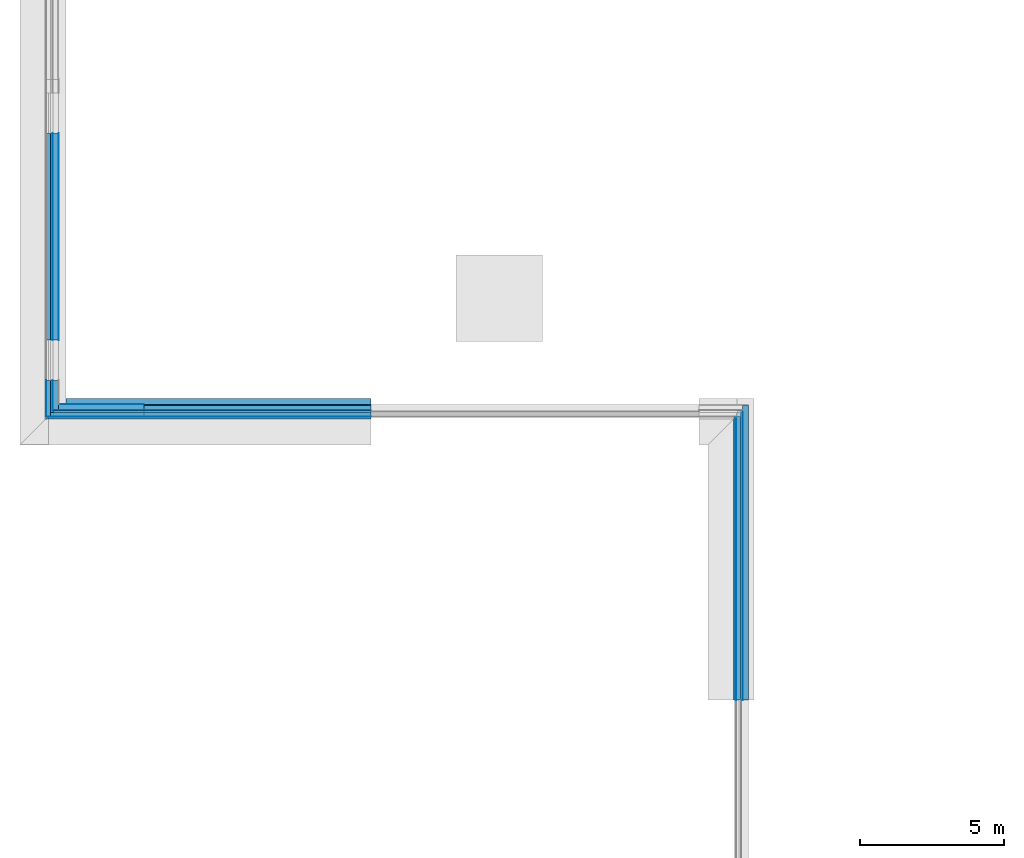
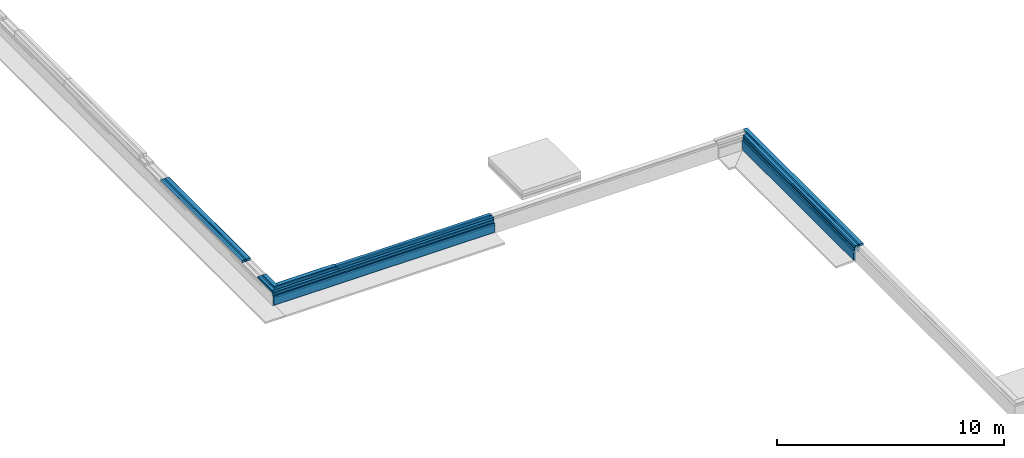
# One storey, part 4 of 17: 40 building element parts, 7 elements without a shape of their own.
"""IFC2X3 building model written with IfcOpenShell, lengths in millimetres."""

from ifc_helpers import new_model, entity, si_unit, converted_unit, derived_unit, money_unit, direction, frame, origin_with_axes, place, context, subcontext, project, spatial, faceted_brep, material, type_object, element, aggregate, save


model = new_model("IFC2X3")

# Units and contexts
model_context = context("Model", 3, precision=0.01, world=origin_with_axes(), true_north=direction((0.0, 1.0)))
body_context = subcontext(model_context, "Body", "Model", "MODEL_VIEW")
ifc_project = project(units=[si_unit("LENGTHUNIT", "METRE", prefix="MILLI"), si_unit("AREAUNIT", "SQUARE_METRE"), si_unit("VOLUMEUNIT", "CUBIC_METRE"), converted_unit("PLANEANGLEUNIT", "DEGREE", entity("IfcPlaneAngleMeasure", 0.0174532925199), si_unit("PLANEANGLEUNIT", "RADIAN"), dimensions=[0, 0, 0, 0, 0, 0, 0]), money_unit("EUR"), converted_unit("TIMEUNIT", "Year", entity("IfcTimeMeasure", 31556926.0), si_unit("TIMEUNIT", "SECOND"), dimensions=[0, 0, 1, 0, 0, 0, 0]), si_unit("MASSUNIT", "GRAM", prefix="KILO"), si_unit("THERMODYNAMICTEMPERATUREUNIT", "DEGREE_CELSIUS"), si_unit("LUMINOUSINTENSITYUNIT", "LUMEN"), si_unit("ENERGYUNIT", "JOULE", prefix="MEGA"), derived_unit("THERMALCONDUCTANCEUNIT", [(si_unit("POWERUNIT", "WATT"), 1), (si_unit("LENGTHUNIT", "METRE"), -1), (si_unit("THERMODYNAMICTEMPERATUREUNIT", "KELVIN"), -1)]), derived_unit("SPECIFICHEATCAPACITYUNIT", [(si_unit("ENERGYUNIT", "JOULE"), 1), (si_unit("MASSUNIT", "GRAM", prefix="KILO"), -1), (si_unit("THERMODYNAMICTEMPERATUREUNIT", "KELVIN"), -1)]), derived_unit("MASSDENSITYUNIT", [(si_unit("MASSUNIT", "GRAM", prefix="KILO"), 1), (si_unit("VOLUMEUNIT", "CUBIC_METRE"), -1)])], contexts=[model_context])

# Site, building, storey
site_placement = place(None, origin_with_axes())
site = spatial("IfcSite", under=ifc_project, at=site_placement, Name="Kolde pst 67a", CompositionType="ELEMENT")
building_placement = place(site_placement, origin_with_axes())
building = spatial("IfcBuilding", under=site, at=building_placement, Name="Riigigümnaasium", CompositionType="ELEMENT")
storey_placement = place(building_placement, frame((0.0, 0.0, -1500.0), z_axis=(0.0, 0.0, 1.0), x_axis=(1.0, 0.0, 0.0)))
storey = spatial("IfcBuildingStorey", under=building, at=storey_placement, Name="Vundament", CompositionType="ELEMENT", Elevation=-1500.0)

# Wall, building element parts
wall_type_1 = type_object("IfcWallType", Name="Lintvundament 1602 x 765", PredefinedType="NOTDEFINED")
wall_1_placement = place(storey_placement, frame((40.0563582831, 48039.9808318, 1479.99999851), z_axis=(0.0, 0.0, 1.0), x_axis=(1.0, 0.0, 0.0)))
wall_1 = element("IfcWall", 1, at=wall_1_placement, inside=storey, type_object=wall_type_1, Name="Vundament")
ifc_material_1 = material(Name="_KANDETARIND - monoliitne raudbetoon vastavalt EK osale")
building_element_part_1_placement = place(wall_1_placement, origin_with_axes())
building_element_part_1 = element("IfcBuildingElementPart", 2, at=building_element_part_1_placement, material=ifc_material_1, Name="_KANDETARIND - monoliitne raudbetoon vastavalt EK osale", context=body_context, shape_type="Brep", body=[
    faceted_brep([(199.999999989, 200.000000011, 0.0), (11068.5385942, 200.0000006, 0.0), (11068.5385942, 200.0000006, -250.0), (459.942555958, 200.000000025, -250.0), (199.999999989, 200.000000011, -250.0), (200.0, 1.08428821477e-08, 0.0), (11068.5385942, 6.00437033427e-07, 0.0), (11068.5385942, 399.942556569, -250.0), (11068.5385942, 6.00437033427e-07, -250.0), (11068.5385942, -200.057443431, -250.0), (11068.5385942, -200.057443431, -750.0), (11068.5385942, 399.942556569, -750.0), (459.942555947, 399.942555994, -250.0), (459.942555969, 2.49471554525e-08, -250.0), (200.0, 1.08499875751e-08, -250.0), (459.94255598, -200.057444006, -250.0), (459.94255598, -200.057444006, -750.0), (459.942555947, 399.942555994, -750.0)], [[[0, 1, 2, 3, 4]], [[0, 5, 6, 1]], [[7, 2, 1, 6, 8, 9, 10, 11]], [[12, 3, 2, 7]], [[4, 3, 13, 14]], [[5, 0, 4, 14]], [[5, 14, 13, 8, 6]], [[13, 15, 9, 8]], [[15, 16, 10, 9]], [[16, 17, 11, 10]], [[12, 7, 11, 17]], [[3, 12, 17, 16, 15, 13]]]),
])
ifc_material_2 = material(Name="_SOOJUSTUS - ekstrudeeritud polüstüreenist plaadid XPS 250, survetugevus min 250kPa, soojuserijuhtivus λD<0,036 W/(mK), veeimavus alla 0,2%, näiteks XPS 250 foam SL või samaväärne")
building_element_part_2_placement = place(wall_1_placement, origin_with_axes())
building_element_part_2 = element("IfcBuildingElementPart", 3, at=building_element_part_2_placement, material=ifc_material_2, Name="_SOOJUSTUS - ekstrudeeritud polüstüreenist plaadid XPS 250, survetugevus min 250kPa, soojuserijuhtivus λD<0,036 W/(mK), veeimavus alla 0,2%, näiteks XPS 250 foam SL või samaväärne", context=body_context, shape_type="Brep", body=[
    faceted_brep([(-3.00000241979, -3.0000024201, 0.0), (11068.5385942, -3.00000181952, -3.7612034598e-06), (11068.5385942, -3.00000181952, -146.999999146), (-3.00000241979, -3.00000242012, -146.99999851), (-3.000002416, -73.0000017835, 0.0), (11068.5385942, -73.0000011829, -3.76120340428e-06), (11068.5385942, -73.0000011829, -146.999999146), (-3.000002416, -73.0000017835, -146.99999851)], [[[0, 1, 2, 3]], [[0, 4, 5, 1]], [[5, 6, 2, 1]], [[3, 2, 6, 7]], [[4, 0, 3, 7]], [[4, 7, 6, 5]]]),
])
ifc_material_3 = material(Name="_SOOJUSTUS - vahtpolüstüreenplaadid EPS 120 Perimeeter, survetugevus min 120kPa, veeimavus <2%, soojuserijuhtivus λD<0,036 W/(mK)")
building_element_part_3_placement = place(wall_1_placement, origin_with_axes())
building_element_part_3 = element("IfcBuildingElementPart", 4, at=building_element_part_3_placement, material=ifc_material_3, Name="_SOOJUSTUS - vahtpolüstüreenplaadid EPS 120 Perimeeter, survetugevus min 120kPa, veeimavus <2%, soojuserijuhtivus λD<0,036 W/(mK)", context=body_context, shape_type="Brep", body=[
    faceted_brep([(-73.0000021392, -73.0000013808, 1.49012682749e-06), (11068.5385942, -73.0000007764, -2.23078100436e-06), (11068.5385942, -73.0000007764, -146.999999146), (-73.0000021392, -73.0000013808, -146.999998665), (-73.0000021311, -223.000000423, 1.49012682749e-06), (11068.5385942, -222.999999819, -2.23078100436e-06), (11068.5385942, -222.999999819, -146.999999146), (-73.0000021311, -223.000000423, -146.999998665)], [[[0, 1, 2, 3]], [[0, 4, 5, 1]], [[6, 2, 1, 5]], [[2, 6, 7, 3]], [[4, 0, 3, 7]], [[4, 7, 6, 5]]]),
])
building_element_part_4_placement = place(wall_1_placement, origin_with_axes())
building_element_part_4 = element("IfcBuildingElementPart", 5, at=building_element_part_4_placement, material=ifc_material_3, Name="_SOOJUSTUS - vahtpolüstüreenplaadid EPS 120 Perimeeter, survetugevus min 120kPa, veeimavus <2%, soojuserijuhtivus λD<0,036 W/(mK)", context=body_context, shape_type="Brep", body=[
    faceted_brep([(-3.00000241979, -3.00000242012, -247.000000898), (-3.00000241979, -3.00000242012, -146.999997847), (11068.5385942, -3.00000181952, -146.99999851), (11068.5385942, -3.00000181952, -247.000001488), (-3.00000240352, -303.057446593, -146.999997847), (-3.00000240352, -303.057446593, -247.000000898), (11068.5385942, -303.057445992, -146.99999851), (11068.5385942, -303.057445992, -247.000001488)], [[[0, 1, 2, 3]], [[4, 1, 0, 5]], [[1, 4, 6, 2]], [[7, 3, 2, 6]], [[5, 0, 3, 7]], [[4, 5, 7, 6]]]),
])
ifc_material_4 = material(Name="_HÜDROISOLATSIOON - Bituumenvõõp COMBIFLEX-EL vastavalt TL2 nõuetele")
building_element_part_5_placement = place(wall_1_placement, origin_with_axes())
building_element_part_5 = element("IfcBuildingElementPart", 6, at=building_element_part_5_placement, material=ifc_material_4, Name="_HÜDROISOLATSIOON - Bituumenvõõp COMBIFLEX-EL vastavalt TL2 nõuetele", context=body_context, shape_type="Brep", body=[
    faceted_brep([(0.0, 0.0, 6.88264223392e-07), (11068.5385942, 6.00444138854e-07, 8.81641959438e-06), (11068.5385942, 6.00444138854e-07, -250.000008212), (0.0, 0.0, -250.000006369), (1.63632996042e-10, -2.99999783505, 6.88264223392e-07), (11068.5385942, -2.99999723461, -2.35946218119e-06), (11068.5385942, -203.057434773, -750.000008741), (11068.5385942, -200.057436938, -750.000008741), (11068.5385942, -200.057436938, -250.000008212), (11068.5385942, -2.99999723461, -246.999999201), (11068.5385942, -203.057434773, -246.999999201), (11068.5385942, -203.057434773, -729.999997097), (1.08534431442e-08, -200.057437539, -250.000006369), (1.10161810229e-08, -203.057435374, -250.000006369), (1.10161810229e-08, -203.057435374, -247.000002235), (1.63632996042e-10, -2.99999783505, -247.000002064), (-140.057449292, -203.057435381, -750.000006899), (-140.057449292, -200.057437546, -750.000006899), (-140.05744801, -200.057437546, -250.000006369), (-140.05744801, -203.057435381, -250.000006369), (-140.057449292, -203.057435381, -729.999995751)], [[[0, 1, 2, 3]], [[0, 4, 5, 1]], [[6, 7, 8, 2, 1, 5, 9, 10, 11]], [[8, 12, 3, 2]], [[4, 0, 3, 12, 13, 14, 15]], [[4, 15, 9, 5]], [[6, 16, 17, 7]], [[8, 7, 17, 18, 12]], [[9, 15, 14, 10]], [[13, 19, 20, 11, 10, 14]], [[11, 20, 16, 6]], [[13, 12, 18, 19]], [[17, 16, 20, 19, 18]]]),
])
ifc_material_5 = material(Name="_TUULETÕKE - sokli krohv, silikoonvaikkrohv Weber.pas 481 AquaBalance 1mm \"scratch\" viimistlus, toon helehall CL444 (S 3502-Y) * 35, SILS süsteem, või samaväärne")
building_element_part_6_placement = place(wall_1_placement, origin_with_axes())
building_element_part_6 = element("IfcBuildingElementPart", 7, at=building_element_part_6_placement, material=ifc_material_5, Name="_TUULETÕKE - sokli krohv, silikoonvaikkrohv Weber.pas 481 AquaBalance 1mm \"scratch\" viimistlus, toon helehall CL444 (S 3502-Y) * 35, SILS süsteem, või samaväärne", context=body_context, shape_type="Brep", body=[
    faceted_brep([(-223.000003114, -223.000001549, 1.74315643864e-06), (11068.5385942, -223.000000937, -1.37334277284e-06), (11068.5385942, -223.000000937, -146.999999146), (-223.000003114, -223.000001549, -146.999999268), (-223.000003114, -233.00000156, 1.74315643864e-06), (11068.5385942, -233.000000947, -1.37334277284e-06), (11068.5385942, -233.000000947, -146.999999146), (11068.5385942, -233.000001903, -30.0000036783), (-223.000003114, -233.00000156, -146.999999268), (-223.000003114, -233.000002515, -30.0000036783)], [[[0, 1, 2, 3]], [[0, 4, 5, 1]], [[6, 2, 1, 5, 7]], [[6, 8, 3, 2]], [[9, 4, 0, 3, 8]], [[4, 9, 7, 5]], [[7, 9, 8, 6]]]),
])
ifc_material_6 = material(Name="_HÜDROISOLATSIOON - tsemendil baseeruv ühekomponentne hüdroisolatsioon hüdroisoleerimiseks sokli krohvi pealt, ülevärvitud silikoonvaikvärviga sokli krohvi tooni, Weber.tec 824 ja Weber.ton 411 AquaBalance toon CL444 (S 3502-Y) * 35 või samaväärne")
building_element_part_7_placement = place(wall_1_placement, origin_with_axes())
building_element_part_7 = element("IfcBuildingElementPart", 8, at=building_element_part_7_placement, material=ifc_material_6, Name="_HÜDROISOLATSIOON - tsemendil baseeruv ühekomponentne hüdroisolatsioon hüdroisoleerimiseks sokli krohvi pealt, ülevärvitud silikoonvaikvärviga sokli krohvi tooni, Weber.tec 824 ja Weber.ton 411 AquaBalance toon CL444 (S 3502-Y) * 35 või samaväärne", context=body_context, shape_type="Brep", body=[
    faceted_brep([(-232.999999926, -233.000002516, -147.000002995), (-232.999999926, -233.000002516, -30.0000036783), (11068.5385942, -233.000001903, -30.0000036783), (11068.5385942, -233.000001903, -147.000002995), (-232.999999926, -234.999996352, -30.0000036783), (-232.999999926, -234.999996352, -147.000002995), (11068.5385942, -234.999995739, -29.9999946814), (11068.5385942, -234.999995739, -146.999993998)], [[[0, 1, 2, 3]], [[4, 1, 0, 5]], [[1, 4, 6, 2]], [[3, 2, 6, 7]], [[5, 0, 3, 7]], [[4, 5, 7, 6]]]),
])
building_element_part_8_placement = place(wall_1_placement, origin_with_axes())
building_element_part_8 = element("IfcBuildingElementPart", 9, at=building_element_part_8_placement, material=ifc_material_3, Name="_SOOJUSTUS - vahtpolüstüreenplaadid EPS 120 Perimeeter, survetugevus min 120kPa, veeimavus <2%, soojuserijuhtivus λD<0,036 W/(mK)", context=body_context, shape_type="Brep", body=[
    faceted_brep([(-143.057441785, -203.057444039, -629.930161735), (-143.057441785, -203.057444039, -247.000002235), (11068.5385942, -203.057443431, -246.99999851), (11068.5385942, -203.057443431, -629.930162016), (-143.05744178, -303.057446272, -247.000002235), (-143.05744178, -303.057446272, -629.930161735), (11068.5385942, -303.057445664, -246.99999851), (11068.5385942, -303.057445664, -633.422240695), (-243.057443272, -303.057446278, -633.422240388)], [[[0, 1, 2, 3]], [[4, 1, 0, 5]], [[1, 4, 6, 2]], [[6, 7, 3, 2]], [[3, 7, 8, 0]], [[5, 0, 8]], [[4, 5, 8, 7, 6]]]),
])
ifc_material_7 = material(Name="_ALUSKATE - drenaaži- ja kaitsematt geotekstiiliga soojustuse kaitseks, Interplast Iso-Drain 8 Geo või samaväärne")
building_element_part_9_placement = place(wall_1_placement, origin_with_axes())
building_element_part_9 = element("IfcBuildingElementPart", 10, at=building_element_part_9_placement, material=ifc_material_7, Name="_ALUSKATE - drenaaži- ja kaitsematt geotekstiiliga soojustuse kaitseks, Interplast Iso-Drain 8 Geo või samaväärne", context=body_context, shape_type="Brep", body=[
    faceted_brep([(-235.000000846, -234.999993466, -146.999992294), (-235.000000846, -234.999993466, -29.9999946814), (11068.5385942, -234.999992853, -29.9999946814), (11068.5385942, -234.999992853, -146.999992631), (-235.000000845, -245.000005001, -29.9999946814), (-235.000000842, -303.057440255, -146.999992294), (-235.000000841, -313.057436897, -146.999992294), (-235.000000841, -313.057436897, -137.030570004), (-235.000000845, -245.000005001, -137.030570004), (11068.5385942, -245.000004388, -29.9999946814), (11068.5385942, -245.000004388, -137.030570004), (11068.5385942, -313.057436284, -137.030570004), (11068.5385942, -313.057436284, -633.771447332), (11068.5385942, -303.057439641, -633.422236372), (11068.5385942, -303.057439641, -146.999992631), (-243.057437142, -303.057440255, -146.999999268), (-243.057437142, -313.057436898, -146.999999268), (-243.05743799, -313.057436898, -629.93015656), (-243.057553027, -313.057436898, -633.422240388), (-253.057449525, -313.057436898, -633.771447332), (-243.057553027, -303.057440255, -633.422240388), (-243.05743799, -303.057440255, -629.93015656)], [[[0, 1, 2, 3]], [[4, 1, 0, 5, 6, 7, 8]], [[1, 4, 9, 2]], [[2, 9, 10, 11, 12, 13, 14, 3]], [[5, 0, 3, 14]], [[5, 15, 16, 6]], [[6, 16, 17, 18, 19, 12, 11, 7]], [[8, 7, 11, 10]], [[4, 8, 10, 9]], [[19, 20, 13, 12]], [[15, 5, 14, 13, 20, 21]], [[16, 15, 21, 17]], [[20, 18, 17, 21]], [[18, 20, 19]]]),
])
aggregate(wall_1, [building_element_part_1, building_element_part_2, building_element_part_3, building_element_part_4, building_element_part_5, building_element_part_6, building_element_part_7, building_element_part_8, building_element_part_9])

wall_2_placement = place(storey_placement, frame((24040.0027342, 48039.9808308, 1479.99999851), z_axis=(0.0, 0.0, 1.0), x_axis=(0.0, -1.0, 0.0)))
wall_2 = element("IfcWall", 11, at=wall_2_placement, inside=storey, type_object=wall_type_1, Name="Vundament")
building_element_part_10_placement = place(wall_2_placement, origin_with_axes())
building_element_part_10 = element("IfcBuildingElementPart", 12, at=building_element_part_10_placement, material=ifc_material_4, Name="_HÜDROISOLATSIOON - Bituumenvõõp COMBIFLEX-EL vastavalt TL2 nõuetele", context=body_context, shape_type="Brep", body=[
    faceted_brep([(-8.36024582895e-08, 0.0, 0.0), (10089.4842046, 0.0, 8.81641959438e-06), (10089.4842046, 0.0, -250.000008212), (-8.36024582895e-08, 0.0, -250.0), (-8.36024582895e-08, -2.99999783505, 0.0), (10089.4842046, -2.99999783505, -2.35946218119e-06), (10089.4842046, -200.057437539, -250.000008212), (10089.4842046, -2.99999783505, -246.999999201), (10089.4842046, -203.057435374, -246.999999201), (10089.4842046, -203.057435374, -729.999997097), (10089.4842046, -203.057435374, -750.000008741), (10089.4842046, -200.057437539, -750.000008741), (-8.36024582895e-08, -203.057435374, -250.0), (200.057443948, -200.057437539, -250.0), (200.057443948, -203.057435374, -250.0), (-8.36024582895e-08, -203.057435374, -247.000001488), (-8.36024582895e-08, -2.99999783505, -247.000001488), (200.057443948, -203.057435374, -729.999995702), (200.057443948, -203.057435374, -750.0), (200.057443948, -200.057437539, -750.0)], [[[0, 1, 2, 3]], [[0, 4, 5, 1]], [[6, 2, 1, 5, 7, 8, 9, 10, 11]], [[12, 3, 2, 6, 13, 14]], [[4, 0, 3, 12, 15, 16]], [[4, 16, 7, 5]], [[16, 15, 8, 7]], [[14, 17, 9, 8, 15, 12]], [[17, 18, 10, 9]], [[18, 19, 11, 10]], [[13, 6, 11, 19]], [[14, 13, 19, 18, 17]]]),
])
building_element_part_11_placement = place(wall_2_placement, origin_with_axes())
building_element_part_11 = element("IfcBuildingElementPart", 13, at=building_element_part_11_placement, material=ifc_material_5, Name="_TUULETÕKE - sokli krohv, silikoonvaikkrohv Weber.pas 481 AquaBalance 1mm \"scratch\" viimistlus, toon helehall CL444 (S 3502-Y) * 35, SILS süsteem, või samaväärne", context=body_context, shape_type="Brep", body=[
    faceted_brep([(223.000000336, -223.000001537, -2.23078099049e-06), (10089.4842046, -223.000001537, -1.37334277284e-06), (10089.4842046, -223.000001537, -146.999999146), (223.000000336, -223.000001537, -146.999999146), (223.000000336, -233.000001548, -2.23078099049e-06), (10089.4842046, -233.000001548, -1.37334277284e-06), (10089.4842046, -233.000002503, -30.0000036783), (10089.4842046, -233.000001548, -146.999999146), (223.000000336, -233.000001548, -146.999999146), (223.000000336, -233.000002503, -30.0000036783)], [[[0, 1, 2, 3]], [[0, 4, 5, 1]], [[2, 1, 5, 6, 7]], [[8, 3, 2, 7]], [[9, 4, 0, 3, 8]], [[4, 9, 6, 5]], [[9, 8, 7, 6]]]),
])
building_element_part_12_placement = place(wall_2_placement, origin_with_axes())
building_element_part_12 = element("IfcBuildingElementPart", 14, at=building_element_part_12_placement, material=ifc_material_6, Name="_HÜDROISOLATSIOON - tsemendil baseeruv ühekomponentne hüdroisolatsioon hüdroisoleerimiseks sokli krohvi pealt, ülevärvitud silikoonvaikvärviga sokli krohvi tooni, Weber.tec 824 ja Weber.ton 411 AquaBalance toon CL444 (S 3502-Y) * 35 või samaväärne", context=body_context, shape_type="Brep", body=[
    faceted_brep([(233.000001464, -233.000002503, -146.999999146), (233.000002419, -233.000002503, -30.0000036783), (10089.4842046, -233.000002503, -30.0000036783), (10089.4842046, -233.000002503, -147.000002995), (233.000002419, -234.99999634, -30.0000036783), (233.000001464, -234.99999634, -146.999999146), (10089.4842046, -234.99999634, -29.9999946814), (10089.4842046, -234.99999634, -146.999993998)], [[[0, 1, 2, 3]], [[4, 1, 0, 5]], [[1, 4, 6, 2]], [[7, 3, 2, 6]], [[5, 0, 3, 7]], [[4, 5, 7, 6]]]),
])
building_element_part_13_placement = place(wall_2_placement, origin_with_axes())
building_element_part_13 = element("IfcBuildingElementPart", 15, at=building_element_part_13_placement, material=ifc_material_3, Name="_SOOJUSTUS - vahtpolüstüreenplaadid EPS 120 Perimeeter, survetugevus min 120kPa, veeimavus <2%, soojuserijuhtivus λD<0,036 W/(mK)", context=body_context, shape_type="Brep", body=[
    faceted_brep([(203.05743529, -203.057444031, -629.93015656), (203.05743529, -203.057444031, -246.999999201), (10089.4842046, -203.057444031, -246.99999851), (10089.4842046, -203.057444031, -629.930162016), (203.05743529, -303.057446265, -246.999999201), (203.05743529, -303.057446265, -629.93015656), (10089.4842046, -303.057446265, -246.99999851), (10089.4842046, -303.057446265, -633.422240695), (303.057483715, -303.057446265, -633.422240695)], [[[0, 1, 2, 3]], [[4, 1, 0, 5]], [[1, 4, 6, 2]], [[7, 3, 2, 6]], [[8, 0, 3, 7]], [[5, 0, 8]], [[4, 5, 8, 7, 6]]]),
])
building_element_part_14_placement = place(wall_2_placement, origin_with_axes())
building_element_part_14 = element("IfcBuildingElementPart", 16, at=building_element_part_14_placement, material=ifc_material_7, Name="_ALUSKATE - drenaaži- ja kaitsematt geotekstiiliga soojustuse kaitseks, Interplast Iso-Drain 8 Geo või samaväärne", context=body_context, shape_type="Brep", body=[
    faceted_brep([(234.999996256, -234.999993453, -146.999993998), (234.999996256, -234.999993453, -29.9999946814), (10089.4842046, -234.999993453, -29.9999946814), (10089.4842046, -234.999993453, -146.999992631), (234.999996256, -245.000004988, -29.9999946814), (234.999996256, -313.057436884, -146.999993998), (234.999996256, -313.057436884, -137.030570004), (234.999996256, -245.000004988, -137.030570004), (10089.4842046, -245.000004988, -29.9999946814), (10089.4842046, -245.000004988, -137.030570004), (10089.4842046, -313.057436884, -137.030570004), (10089.4842046, -313.057436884, -633.771447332), (10089.4842046, -303.057440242, -633.422236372), (10089.4842046, -303.057440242, -146.999992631), (303.057446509, -303.057440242, -146.99999851), (303.057446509, -313.057436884, -146.99999851), (303.057446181, -313.057436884, -633.422240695), (313.057436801, -313.057436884, -633.771447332), (303.057446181, -303.057440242, -633.422240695)], [[[0, 1, 2, 3]], [[4, 1, 0, 5, 6, 7]], [[1, 4, 8, 2]], [[9, 10, 11, 12, 13, 3, 2, 8]], [[5, 0, 3, 13, 14, 15]], [[6, 5, 15, 16, 17, 11, 10]], [[7, 6, 10, 9]], [[4, 7, 9, 8]], [[17, 18, 12, 11]], [[12, 18, 14, 13]], [[18, 16, 15, 14]], [[16, 18, 17]]]),
])
aggregate(wall_2, [building_element_part_10, building_element_part_11, building_element_part_12, building_element_part_13, building_element_part_14])

wall_type_2 = type_object("IfcWallType", Name="VS-RB-20/2_sokkel  443", PredefinedType="NOTDEFINED")
wall_3_placement = place(storey_placement, frame((40.0568180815, 57672.0053224, 1480.0), z_axis=(0.0, 0.0, 1.0), x_axis=(0.0, -1.0, 0.0)))
wall_3 = element("IfcWall", 17, at=wall_3_placement, inside=storey, type_object=wall_type_2, Name="Sokkel")
ifc_material_8 = material(Name="_VIIMISTLUSKIHT - viimistlus vastavalt SA osale")
building_element_part_15_placement = place(wall_3_placement, origin_with_axes())
building_element_part_15 = element("IfcBuildingElementPart", 18, at=building_element_part_15_placement, material=ifc_material_8, Name="_VIIMISTLUSKIHT - viimistlus vastavalt SA osale", context=body_context, shape_type="Brep", body=[
    faceted_brep([(7190.71404711, 210.0, 0.0), (7190.71404711, 200.0, 0.0), (0.0, 200.0, 0.0), (0.0, 210.0, 0.0), (7190.71404711, 210.0, 120.0), (7190.71404711, 200.0, 120.0), (0.0, 200.0, 120.0), (0.0, 210.0, 120.0)], [[[0, 1, 2, 3]], [[0, 4, 5, 1]], [[1, 5, 6, 2]], [[3, 2, 6, 7]], [[4, 0, 3, 7]], [[5, 4, 7, 6]]]),
])
ifc_material_9 = material(Name="_KANDETARIND - monteeritav raudbetoon vastavalt EK osale")
building_element_part_16_placement = place(wall_3_placement, origin_with_axes())
building_element_part_16 = element("IfcBuildingElementPart", 19, at=building_element_part_16_placement, material=ifc_material_9, Name="_KANDETARIND - monteeritav raudbetoon vastavalt EK osale", context=body_context, shape_type="Brep", body=[
    faceted_brep([(7190.71404711, 200.0, 0.0), (7190.71404711, 0.0, 0.0), (0.0, 0.0, 0.0), (0.0, 200.0, 0.0), (7190.71404711, 200.0, 120.0), (7190.71404711, 0.0, 120.0), (0.0, 0.0, 120.0), (0.0, 200.0, 120.0)], [[[0, 1, 2, 3]], [[0, 4, 5, 1]], [[1, 5, 6, 2]], [[3, 2, 6, 7]], [[4, 0, 3, 7]], [[5, 4, 7, 6]]]),
])
ifc_material_10 = material(Name="_HÜDROISOLATSIOON - 3x SBS rullmaterjal vastavalt TL2 nõuetele, nakke tugevduseks betoonpind eelnevalt katta hüdroisolatsiooni bituumenvõõbaga")
building_element_part_17_placement = place(wall_3_placement, origin_with_axes())
building_element_part_17 = element("IfcBuildingElementPart", 20, at=building_element_part_17_placement, material=ifc_material_10, Name="_HÜDROISOLATSIOON - 3x SBS rullmaterjal vastavalt TL2 nõuetele, nakke tugevduseks betoonpind eelnevalt katta hüdroisolatsiooni bituumenvõõbaga", context=body_context, shape_type="Brep", body=[
    faceted_brep([(7190.71404711, 0.0, 0.0), (7190.71404711, -2.99999999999, 0.0), (0.0, -3.0, 0.0), (0.0, 0.0, 0.0), (7190.71404711, 0.0, 120.0), (7190.71404711, -2.99999999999, 120.0), (0.0, -3.0, 120.0), (0.0, 0.0, 120.0)], [[[0, 1, 2, 3]], [[0, 4, 5, 1]], [[1, 5, 6, 2]], [[3, 2, 6, 7]], [[4, 0, 3, 7]], [[5, 4, 7, 6]]]),
])
building_element_part_18_placement = place(wall_3_placement, origin_with_axes())
building_element_part_18 = element("IfcBuildingElementPart", 21, at=building_element_part_18_placement, material=ifc_material_2, Name="_SOOJUSTUS - ekstrudeeritud polüstüreenist plaadid XPS 250, survetugevus min 250kPa, soojuserijuhtivus λD<0,036 W/(mK), veeimavus alla 0,2%, näiteks XPS 250 foam SL või samaväärne", context=body_context, shape_type="Brep", body=[
    faceted_brep([(7190.71404711, -2.99999999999, 0.0), (7190.71404711, -73.0, 0.0), (0.0, -73.0, 0.0), (0.0, -3.0, 0.0), (7190.71404711, -2.99999999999, 120.0), (7190.71404711, -73.0, 120.0), (0.0, -73.0, 120.0), (0.0, -3.0, 120.0)], [[[0, 1, 2, 3]], [[0, 4, 5, 1]], [[1, 5, 6, 2]], [[3, 2, 6, 7]], [[4, 0, 3, 7]], [[5, 4, 7, 6]]]),
])
building_element_part_19_placement = place(wall_3_placement, origin_with_axes())
building_element_part_19 = element("IfcBuildingElementPart", 22, at=building_element_part_19_placement, material=ifc_material_3, Name="_SOOJUSTUS - vahtpolüstüreenplaadid EPS 120 Perimeeter, survetugevus min 120kPa, veeimavus <2%, soojuserijuhtivus λD<0,036 W/(mK)", context=body_context, shape_type="Brep", body=[
    faceted_brep([(7190.71404711, -73.0, 0.0), (7190.71404711, -223.0, 0.0), (0.0, -223.0, 0.0), (0.0, -73.0, 0.0), (7190.71404711, -73.0, 120.0), (7190.71404711, -223.0, 120.0), (0.0, -223.0, 120.0), (0.0, -73.0, 120.0)], [[[0, 1, 2, 3]], [[0, 4, 5, 1]], [[1, 5, 6, 2]], [[3, 2, 6, 7]], [[4, 0, 3, 7]], [[5, 4, 7, 6]]]),
])
aggregate(wall_3, [building_element_part_15, building_element_part_16, building_element_part_17, building_element_part_18, building_element_part_19])

wall_4_placement = place(storey_placement, frame((40.0568180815, 49081.2912596, 1480.0), z_axis=(0.0, 0.0, 1.0), x_axis=(-4.41557497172e-07, -1.0, 0.0)))
wall_4 = element("IfcWall", 23, at=wall_4_placement, inside=storey, type_object=wall_type_2, Name="Sokkel")
building_element_part_20_placement = place(wall_4_placement, origin_with_axes())
building_element_part_20 = element("IfcBuildingElementPart", 24, at=building_element_part_20_placement, material=ifc_material_9, Name="_KANDETARIND - monteeritav raudbetoon vastavalt EK osale", context=body_context, shape_type="Brep", body=[
    faceted_brep([(1041.31042876, 0.0, 0.0), (0.0, 0.0, 0.0), (0.0, 200.0, 0.0), (1041.31034024, 200.0, 0.0), (1041.31042876, 0.0, 120.0), (0.0, 0.0, 120.0), (0.0, 200.0, 120.0), (1041.31034024, 200.0, 120.0)], [[[0, 1, 2, 3]], [[4, 5, 1, 0]], [[2, 1, 5, 6]], [[3, 2, 6, 7]], [[3, 7, 4, 0]], [[7, 6, 5, 4]]]),
])
building_element_part_21_placement = place(wall_4_placement, origin_with_axes())
building_element_part_21 = element("IfcBuildingElementPart", 25, at=building_element_part_21_placement, material=ifc_material_10, Name="_HÜDROISOLATSIOON - 3x SBS rullmaterjal vastavalt TL2 nõuetele, nakke tugevduseks betoonpind eelnevalt katta hüdroisolatsiooni bituumenvõõbaga", context=body_context, shape_type="Brep", body=[
    faceted_brep([(1044.31043008, -3.0, 0.0), (0.0, -3.0, 0.0), (0.0, 0.0, 0.0), (1044.31042876, 0.0, 0.0), (1044.31043008, -3.0, 120.0), (0.0, -3.0, 120.0), (0.0, 0.0, 120.0), (1044.31042876, 0.0, 120.0)], [[[0, 1, 2, 3]], [[4, 5, 1, 0]], [[2, 1, 5, 6]], [[3, 2, 6, 7]], [[3, 7, 4, 0]], [[7, 6, 5, 4]]]),
])
building_element_part_22_placement = place(wall_4_placement, origin_with_axes())
building_element_part_22 = element("IfcBuildingElementPart", 26, at=building_element_part_22_placement, material=ifc_material_2, Name="_SOOJUSTUS - ekstrudeeritud polüstüreenist plaadid XPS 250, survetugevus min 250kPa, soojuserijuhtivus λD<0,036 W/(mK), veeimavus alla 0,2%, näiteks XPS 250 foam SL või samaväärne", context=body_context, shape_type="Brep", body=[
    faceted_brep([(1114.31046106, -73.0, 0.0), (0.0, -73.0, 0.0), (0.0, -3.0, 0.0), (1114.31043008, -3.0, 0.0), (1114.31046106, -73.0, 120.0), (0.0, -73.0, 120.0), (0.0, -3.0, 120.0), (1114.31043008, -3.0, 120.0)], [[[0, 1, 2, 3]], [[4, 5, 1, 0]], [[2, 1, 5, 6]], [[3, 2, 6, 7]], [[3, 7, 4, 0]], [[7, 6, 5, 4]]]),
])
building_element_part_23_placement = place(wall_4_placement, origin_with_axes())
building_element_part_23 = element("IfcBuildingElementPart", 27, at=building_element_part_23_placement, material=ifc_material_3, Name="_SOOJUSTUS - vahtpolüstüreenplaadid EPS 120 Perimeeter, survetugevus min 120kPa, veeimavus <2%, soojuserijuhtivus λD<0,036 W/(mK)", context=body_context, shape_type="Brep", body=[
    faceted_brep([(1264.31052745, -223.0, 0.0), (0.0, -223.0, 0.0), (0.0, -73.0, 0.0), (1264.31046106, -73.0, 0.0), (1264.31052745, -223.0, 120.0), (0.0, -223.0, 120.0), (0.0, -73.0, 120.0), (1264.31046106, -73.0, 120.0)], [[[0, 1, 2, 3]], [[4, 5, 1, 0]], [[2, 1, 5, 6]], [[3, 2, 6, 7]], [[3, 7, 4, 0]], [[7, 6, 5, 4]]]),
])
building_element_part_24_placement = place(wall_4_placement, origin_with_axes())
building_element_part_24 = element("IfcBuildingElementPart", 28, at=building_element_part_24_placement, material=ifc_material_5, Name="_TUULETÕKE - sokli krohv, silikoonvaikkrohv Weber.pas 481 AquaBalance 1mm \"scratch\" viimistlus, toon helehall CL444 (S 3502-Y) * 35, SILS süsteem, või samaväärne", context=body_context, shape_type="Brep", body=[
    faceted_brep([(1274.31053188, -233.0, 0.0), (0.0, -233.0, 0.0), (0.0, -223.0, 0.0), (1274.31052745, -223.0, 0.0), (1274.31053188, -233.0, 120.0), (0.0, -233.0, 120.0), (0.0, -223.0, 120.0), (1274.31052745, -223.0, 120.0)], [[[0, 1, 2, 3]], [[4, 5, 1, 0]], [[2, 1, 5, 6]], [[3, 2, 6, 7]], [[3, 7, 4, 0]], [[7, 6, 5, 4]]]),
])
aggregate(wall_4, [building_element_part_20, building_element_part_21, building_element_part_22, building_element_part_23, building_element_part_24])

wall_5_placement = place(storey_placement, frame((40.0563582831, 48039.9808308, 1480.0), z_axis=(0.0, 0.0, 1.0), x_axis=(1.0, 1.01081203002e-09, 0.0)))
wall_5 = element("IfcWall", 29, at=wall_5_placement, inside=storey, type_object=wall_type_2, Name="Sokkel")
building_element_part_25_placement = place(wall_5_placement, origin_with_axes())
building_element_part_25 = element("IfcBuildingElementPart", 30, at=building_element_part_25_placement, material=ifc_material_8, Name="_VIIMISTLUSKIHT - viimistlus vastavalt SA osale", context=body_context, shape_type="Brep", body=[
    faceted_brep([(3164.94237242, 209.999996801, 0.0), (3164.94237241, 199.999996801, 0.0), (210.000088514, 199.999999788, 0.0), (210.000092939, 209.999999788, 0.0), (3164.94237242, 209.999996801, 120.0), (3164.94237241, 199.999996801, 120.0), (210.000088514, 199.999999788, 120.0), (210.000092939, 209.999999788, 120.0)], [[[0, 1, 2, 3]], [[0, 4, 5, 1]], [[1, 5, 6, 2]], [[3, 2, 6, 7]], [[4, 0, 3, 7]], [[5, 4, 7, 6]]]),
])
building_element_part_26_placement = place(wall_5_placement, origin_with_axes())
building_element_part_26 = element("IfcBuildingElementPart", 31, at=building_element_part_26_placement, material=ifc_material_9, Name="_KANDETARIND - monteeritav raudbetoon vastavalt EK osale", context=body_context, shape_type="Brep", body=[
    faceted_brep([(3164.94237261, 199.999996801, 0.0), (3164.94237241, -3.19916182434e-06, 0.0), (200.0, -2.02163619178e-07, 0.0), (200.000088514, 199.999999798, 0.0), (3164.94237261, 199.999996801, 120.0), (3164.94237241, -3.19916182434e-06, 120.0), (200.0, -2.02163619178e-07, 120.0), (200.000088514, 199.999999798, 120.0)], [[[0, 1, 2, 3]], [[0, 4, 5, 1]], [[1, 5, 6, 2]], [[3, 2, 6, 7]], [[4, 0, 3, 7]], [[5, 4, 7, 6]]]),
])
building_element_part_27_placement = place(wall_5_placement, origin_with_axes())
building_element_part_27 = element("IfcBuildingElementPart", 32, at=building_element_part_27_placement, material=ifc_material_10, Name="_HÜDROISOLATSIOON - 3x SBS rullmaterjal vastavalt TL2 nõuetele, nakke tugevduseks betoonpind eelnevalt katta hüdroisolatsiooni bituumenvõõbaga", context=body_context, shape_type="Brep", body=[
    faceted_brep([(3164.94237241, -3.19916182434e-06, 0.0), (3164.94237241, -3.00000319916, 0.0), (-1.32770491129e-06, -3.0, 0.0), (0.0, 0.0, 0.0), (3164.94237241, -3.19916182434e-06, 120.0), (3164.94237241, -3.00000319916, 120.0), (-1.32770491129e-06, -3.0, 120.0), (0.0, 0.0, 120.0)], [[[0, 1, 2, 3]], [[0, 4, 5, 1]], [[1, 5, 6, 2]], [[3, 2, 6, 7]], [[4, 0, 3, 7]], [[5, 4, 7, 6]]]),
])
building_element_part_28_placement = place(wall_5_placement, origin_with_axes())
building_element_part_28 = element("IfcBuildingElementPart", 33, at=building_element_part_28_placement, material=ifc_material_2, Name="_SOOJUSTUS - ekstrudeeritud polüstüreenist plaadid XPS 250, survetugevus min 250kPa, soojuserijuhtivus λD<0,036 W/(mK), veeimavus alla 0,2%, näiteks XPS 250 foam SL või samaväärne", context=body_context, shape_type="Brep", body=[
    faceted_brep([(3164.94237248, -3.00000319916, 0.0), (3164.94237241, -73.0000031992, 0.0), (-3.00003230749, -72.999999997, 0.0), (-3.00000132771, -2.99999999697, 0.0), (3164.94237248, -3.00000319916, 120.0), (3164.94237241, -73.0000031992, 120.0), (-3.00003230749, -72.999999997, 120.0), (-3.00000132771, -2.99999999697, 120.0)], [[[0, 1, 2, 3]], [[0, 4, 5, 1]], [[1, 5, 6, 2]], [[3, 2, 6, 7]], [[4, 0, 3, 7]], [[5, 4, 7, 6]]]),
])
building_element_part_29_placement = place(wall_5_placement, origin_with_axes())
building_element_part_29 = element("IfcBuildingElementPart", 34, at=building_element_part_29_placement, material=ifc_material_3, Name="_SOOJUSTUS - vahtpolüstüreenplaadid EPS 120 Perimeeter, survetugevus min 120kPa, veeimavus <2%, soojuserijuhtivus λD<0,036 W/(mK)", context=body_context, shape_type="Brep", body=[
    faceted_brep([(3164.94237256, -73.0000031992, 0.0), (3164.94237241, -223.000003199, 0.0), (-73.0000986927, -222.999999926, 0.0), (-73.0000323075, -72.9999999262, 0.0), (3164.94237256, -73.0000031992, 120.0), (3164.94237241, -223.000003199, 120.0), (-73.0000986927, -222.999999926, 120.0), (-73.0000323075, -72.9999999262, 120.0)], [[[0, 1, 2, 3]], [[0, 4, 5, 1]], [[1, 5, 6, 2]], [[3, 2, 6, 7]], [[4, 0, 3, 7]], [[5, 4, 7, 6]]]),
])
building_element_part_30_placement = place(wall_5_placement, origin_with_axes())
building_element_part_30 = element("IfcBuildingElementPart", 35, at=building_element_part_30_placement, material=ifc_material_5, Name="_TUULETÕKE - sokli krohv, silikoonvaikkrohv Weber.pas 481 AquaBalance 1mm \"scratch\" viimistlus, toon helehall CL444 (S 3502-Y) * 35, SILS süsteem, või samaväärne", context=body_context, shape_type="Brep", body=[
    faceted_brep([(3164.94237242, -223.000003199, 0.0), (3164.94237241, -233.000003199, 0.0), (-223.000103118, -232.999999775, 0.0), (-223.000098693, -222.999999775, 0.0), (3164.94237242, -223.000003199, 120.0), (3164.94237241, -233.000003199, 120.0), (-223.000103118, -232.999999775, 120.0), (-223.000098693, -222.999999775, 120.0)], [[[0, 1, 2, 3]], [[0, 4, 5, 1]], [[1, 5, 6, 2]], [[3, 2, 6, 7]], [[4, 0, 3, 7]], [[5, 4, 7, 6]]]),
])
aggregate(wall_5, [building_element_part_25, building_element_part_26, building_element_part_27, building_element_part_28, building_element_part_29, building_element_part_30])

wall_type_3 = type_object("IfcWallType", Name="VS-CLT-16/3_sokkel võimla 393", PredefinedType="NOTDEFINED")
wall_6_placement = place(storey_placement, frame((3204.99873086, 48039.9808308, 1480.0), z_axis=(0.0, 0.0, 1.0), x_axis=(1.0, 0.0, 0.0)))
wall_6 = element("IfcWall", 36, at=wall_6_placement, inside=storey, type_object=wall_type_3, Name="Sokkel")
ifc_material_11 = material(Name="_KANDETARIND - CLT ristkihtliimpuit vastavalt EK osale, CLT paigaldusvuugid teibitakse ROTHOBLAAS teibiga")
building_element_part_31_placement = place(wall_6_placement, origin_with_axes())
building_element_part_31 = element("IfcBuildingElementPart", 37, at=building_element_part_31_placement, material=ifc_material_11, Name="_KANDETARIND - CLT ristkihtliimpuit vastavalt EK osale, CLT paigaldusvuugid teibitakse ROTHOBLAAS teibiga", context=body_context, shape_type="Brep", body=[
    faceted_brep([(7903.59622169, 160.0, 0.0), (7903.59622169, 0.0, 0.0), (0.0, 0.0, 0.0), (0.0, 160.0, 0.0), (7903.59622169, 160.0, 120.0), (7903.59622169, 0.0, 120.0), (0.0, 0.0, 120.0), (0.0, 160.0, 120.0)], [[[0, 1, 2, 3]], [[0, 4, 5, 1]], [[1, 5, 6, 2]], [[3, 2, 6, 7]], [[4, 0, 3, 7]], [[5, 4, 7, 6]]]),
])
building_element_part_32_placement = place(wall_6_placement, origin_with_axes())
building_element_part_32 = element("IfcBuildingElementPart", 38, at=building_element_part_32_placement, material=ifc_material_10, Name="_HÜDROISOLATSIOON - 3x SBS rullmaterjal vastavalt TL2 nõuetele, nakke tugevduseks betoonpind eelnevalt katta hüdroisolatsiooni bituumenvõõbaga", context=body_context, shape_type="Brep", body=[
    faceted_brep([(7903.59622169, 0.0, 0.0), (7903.59622169, -3.0, 0.0), (0.0, -3.0, 0.0), (0.0, 0.0, 0.0), (7903.59622169, 0.0, 120.0), (7903.59622169, -3.0, 120.0), (0.0, -3.0, 120.0), (0.0, 0.0, 120.0)], [[[0, 1, 2, 3]], [[0, 4, 5, 1]], [[1, 5, 6, 2]], [[3, 2, 6, 7]], [[4, 0, 3, 7]], [[5, 4, 7, 6]]]),
])
ifc_material_12 = material(Name="_SOOJUSTUS - ekstrudeeritud polüstüreenist plaadid XPS 250, soojuserijuhtivus lambdaD=0,035 W/mK, veeimavus alla 2%, näiteks Styrofoam 250 SL-A-N  või samaväärne, plaatide vuugid omavahel nihutada")
building_element_part_33_placement = place(wall_6_placement, origin_with_axes())
building_element_part_33 = element("IfcBuildingElementPart", 39, at=building_element_part_33_placement, material=ifc_material_12, Name="_SOOJUSTUS - ekstrudeeritud polüstüreenist plaadid XPS 250, soojuserijuhtivus lambdaD=0,035 W/mK, veeimavus alla 2%, näiteks Styrofoam 250 SL-A-N  või samaväärne, plaatide vuugid omavahel nihutada", context=body_context, shape_type="Brep", body=[
    faceted_brep([(7903.59622169, -3.0, 0.0), (7903.59622169, -73.0, 0.0), (0.0, -73.0, 0.0), (0.0, -3.0, 0.0), (7903.59622169, -3.0, 120.0), (7903.59622169, -73.0, 120.0), (0.0, -73.0, 120.0), (0.0, -3.0, 120.0)], [[[0, 1, 2, 3]], [[0, 4, 5, 1]], [[1, 5, 6, 2]], [[3, 2, 6, 7]], [[4, 0, 3, 7]], [[5, 4, 7, 6]]]),
])
building_element_part_34_placement = place(wall_6_placement, origin_with_axes())
building_element_part_34 = element("IfcBuildingElementPart", 40, at=building_element_part_34_placement, material=ifc_material_3, Name="_SOOJUSTUS - vahtpolüstüreenplaadid EPS 120 Perimeeter, survetugevus min 120kPa, veeimavus <2%, soojuserijuhtivus λD<0,036 W/(mK)", context=body_context, shape_type="Brep", body=[
    faceted_brep([(7903.59622169, -73.0, 0.0), (7903.59622169, -223.0, 0.0), (0.0, -223.0, 0.0), (0.0, -73.0, 0.0), (7903.59622169, -73.0, 120.0), (7903.59622169, -223.0, 120.0), (0.0, -223.0, 120.0), (0.0, -73.0, 120.0)], [[[0, 1, 2, 3]], [[0, 4, 5, 1]], [[1, 5, 6, 2]], [[3, 2, 6, 7]], [[4, 0, 3, 7]], [[5, 4, 7, 6]]]),
])
building_element_part_35_placement = place(wall_6_placement, origin_with_axes())
building_element_part_35 = element("IfcBuildingElementPart", 41, at=building_element_part_35_placement, material=ifc_material_5, Name="_TUULETÕKE - sokli krohv, silikoonvaikkrohv Weber.pas 481 AquaBalance 1mm \"scratch\" viimistlus, toon helehall CL444 (S 3502-Y) * 35, SILS süsteem, või samaväärne", context=body_context, shape_type="Brep", body=[
    faceted_brep([(7903.59622169, -223.0, 0.0), (7903.59622169, -233.0, 0.0), (0.0, -233.0, 0.0), (0.0, -223.0, 0.0), (7903.59622169, -223.0, 120.0), (7903.59622169, -233.0, 120.0), (0.0, -233.0, 120.0), (0.0, -223.0, 120.0)], [[[0, 1, 2, 3]], [[0, 4, 5, 1]], [[1, 5, 6, 2]], [[3, 2, 6, 7]], [[4, 0, 3, 7]], [[5, 4, 7, 6]]]),
])
aggregate(wall_6, [building_element_part_31, building_element_part_32, building_element_part_33, building_element_part_34, building_element_part_35])

wall_type_4 = type_object("IfcWallType", Name="VS-CLT-20/3_sokkel 433", PredefinedType="NOTDEFINED")
wall_7_placement = place(storey_placement, frame((24040.0027342, 48039.9808308, 1480.0), z_axis=(0.0, 0.0, 1.0), x_axis=(-7.07565155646e-09, -1.0, 0.0)))
wall_7 = element("IfcWall", 42, at=wall_7_placement, inside=storey, type_object=wall_type_4, Name="Sokkel")
building_element_part_36_placement = place(wall_7_placement, origin_with_axes())
building_element_part_36 = element("IfcBuildingElementPart", 43, at=building_element_part_36_placement, material=ifc_material_11, Name="_KANDETARIND - CLT ristkihtliimpuit vastavalt EK osale, CLT paigaldusvuugid teibitakse ROTHOBLAAS teibiga", context=body_context, shape_type="Brep", body=[
    faceted_brep([(10089.4842032, 200.00007139, 0.0), (10089.4842046, 7.13896746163e-05, 0.0), (-160.000001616, -1.13210418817e-06, 0.0), (-160.028424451, 199.999998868, 0.0), (10089.4842032, 200.00007139, 120.0), (10089.4842046, 7.13896746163e-05, 120.0), (-160.000001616, -1.13210418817e-06, 120.0), (-160.028424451, 199.999998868, 120.0)], [[[0, 1, 2, 3]], [[0, 4, 5, 1]], [[1, 5, 6, 2]], [[3, 2, 6, 7]], [[4, 0, 3, 7]], [[5, 4, 7, 6]]]),
])
building_element_part_37_placement = place(wall_7_placement, origin_with_axes())
building_element_part_37 = element("IfcBuildingElementPart", 44, at=building_element_part_37_placement, material=ifc_material_10, Name="_HÜDROISOLATSIOON - 3x SBS rullmaterjal vastavalt TL2 nõuetele, nakke tugevduseks betoonpind eelnevalt katta hüdroisolatsiooni bituumenvõõbaga", context=body_context, shape_type="Brep", body=[
    faceted_brep([(10089.4842046, 7.13896746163e-05, 0.0), (10089.4842046, -2.99992861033, 0.0), (3.00042637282, -2.99999997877, 0.0), (3.00000003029, 2.12274642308e-08, 0.0), (10089.4842046, 7.13896746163e-05, 120.0), (10089.4842046, -2.99992861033, 120.0), (3.00042637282, -2.99999997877, 120.0), (3.00000003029, 2.12274642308e-08, 120.0)], [[[0, 1, 2, 3]], [[0, 4, 5, 1]], [[1, 5, 6, 2]], [[3, 2, 6, 7]], [[4, 0, 3, 7]], [[5, 4, 7, 6]]]),
])
building_element_part_38_placement = place(wall_7_placement, origin_with_axes())
building_element_part_38 = element("IfcBuildingElementPart", 45, at=building_element_part_38_placement, material=ifc_material_2, Name="_SOOJUSTUS - ekstrudeeritud polüstüreenist plaadid XPS 250, survetugevus min 250kPa, soojuserijuhtivus λD<0,036 W/(mK), veeimavus alla 0,2%, näiteks XPS 250 foam SL või samaväärne", context=body_context, shape_type="Brep", body=[
    faceted_brep([(10089.4842041, -2.99992861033, 0.0), (10089.4842046, -72.9999286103, 0.0), (73.010375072, -72.9999994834, 0.0), (73.0004270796, -2.99999948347, 0.0), (10089.4842041, -2.99992861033, 120.0), (10089.4842046, -72.9999286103, 120.0), (73.010375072, -72.9999994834, 120.0), (73.0004270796, -2.99999948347, 120.0)], [[[0, 1, 2, 3]], [[0, 4, 5, 1]], [[1, 5, 6, 2]], [[3, 2, 6, 7]], [[4, 0, 3, 7]], [[5, 4, 7, 6]]]),
])
building_element_part_39_placement = place(wall_7_placement, origin_with_axes())
building_element_part_39 = element("IfcBuildingElementPart", 46, at=building_element_part_39_placement, material=ifc_material_3, Name="_SOOJUSTUS - vahtpolüstüreenplaadid EPS 120 Perimeeter, survetugevus min 120kPa, veeimavus <2%, soojuserijuhtivus λD<0,036 W/(mK)", context=body_context, shape_type="Brep", body=[
    faceted_brep([(10089.4842036, -72.9999286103, 0.0), (10089.4842046, -222.99992861, 0.0), (223.031693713, -222.999998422, 0.0), (223.010376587, -72.9999984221, 0.0), (10089.4842036, -72.9999286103, 120.0), (10089.4842046, -222.99992861, 120.0), (223.031693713, -222.999998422, 120.0), (223.010376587, -72.9999984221, 120.0)], [[[0, 1, 2, 3]], [[0, 4, 5, 1]], [[1, 5, 6, 2]], [[3, 2, 6, 7]], [[4, 0, 3, 7]], [[5, 4, 7, 6]]]),
])
building_element_part_40_placement = place(wall_7_placement, origin_with_axes())
building_element_part_40 = element("IfcBuildingElementPart", 47, at=building_element_part_40_placement, material=ifc_material_5, Name="_TUULETÕKE - sokli krohv, silikoonvaikkrohv Weber.pas 481 AquaBalance 1mm \"scratch\" viimistlus, toon helehall CL444 (S 3502-Y) * 35, SILS süsteem, või samaväärne", context=body_context, shape_type="Brep", body=[
    faceted_brep([(10089.4842045, -222.99992861, 0.0), (10089.4842046, -232.99992861, 0.0), (233.033114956, -232.999998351, 0.0), (233.031693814, -222.999998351, 0.0), (10089.4842045, -222.99992861, 120.0), (10089.4842046, -232.99992861, 120.0), (233.033114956, -232.999998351, 120.0), (233.031693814, -222.999998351, 120.0)], [[[0, 1, 2, 3]], [[0, 4, 5, 1]], [[1, 5, 6, 2]], [[3, 2, 6, 7]], [[4, 0, 3, 7]], [[5, 4, 7, 6]]]),
])
aggregate(wall_7, [building_element_part_36, building_element_part_37, building_element_part_38, building_element_part_39, building_element_part_40])

save(model, "model.ifc")
